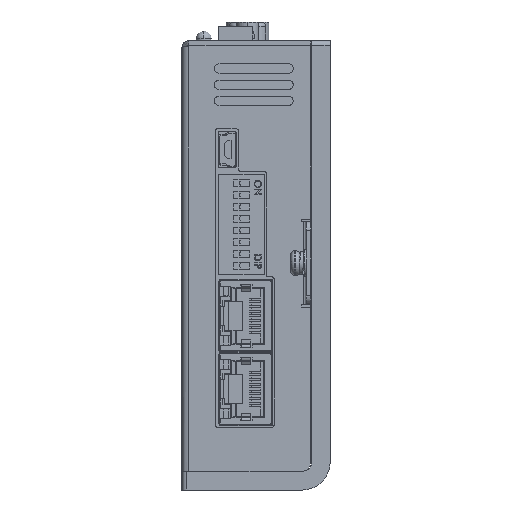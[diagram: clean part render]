
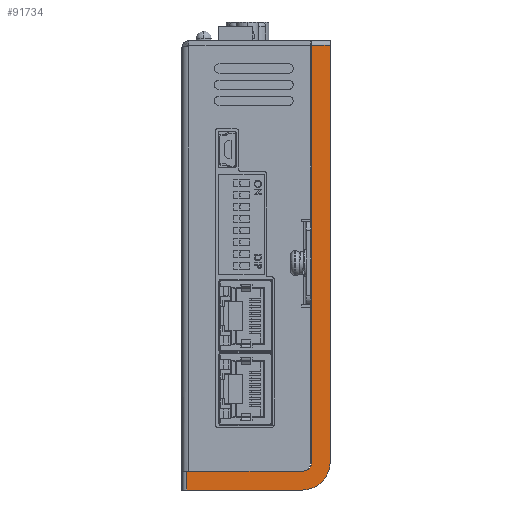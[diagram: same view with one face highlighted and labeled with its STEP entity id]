
A CAD part, left-side view. The second image highlights one B-rep face of the part: STEP entity #91734.
In plain terms, the highlighted planar face has unit normal (-1, 0, 0).
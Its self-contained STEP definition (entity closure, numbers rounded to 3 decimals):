
#9749 = AXIS2_PLACEMENT_3D ( 'NONE', #177257, #177259, #177261 ) ;
#28492 = VERTEX_POINT ( 'NONE', #71185 ) ;
#28494 = VERTEX_POINT ( 'NONE', #71189 ) ;
#28499 = VERTEX_POINT ( 'NONE', #71201 ) ;
#28501 = VERTEX_POINT ( 'NONE', #71205 ) ;
#28503 = VERTEX_POINT ( 'NONE', #71209 ) ;
#28505 = VERTEX_POINT ( 'NONE', #71213 ) ;
#28510 = VERTEX_POINT ( 'NONE', #71225 ) ;
#28533 = VERTEX_POINT ( 'NONE', #71278 ) ;
#47231 = LINE ( 'NONE', #47233, #224228 ) ;
#47233 = CARTESIAN_POINT ( 'NONE',  ( -70., 32., -44.5 ) ) ;
#47234 = DIRECTION ( 'NONE',  ( 0., -1., 0. ) ) ;
#47244 = LINE ( 'NONE', #47245, #224234 ) ;
#47245 = CARTESIAN_POINT ( 'NONE',  ( -70., 4., 48.5 ) ) ;
#47246 = DIRECTION ( 'NONE',  ( 0., 0., 1. ) ) ;
#47272 = CARTESIAN_POINT ( 'NONE',  ( -70., 6., -42.5 ) ) ;
#47273 = DIRECTION ( 'NONE',  ( 1., 0., 0. ) ) ;
#47274 = DIRECTION ( 'NONE',  ( 0., 0., -1. ) ) ;
#50430 = ORIENTED_EDGE ( 'NONE', *, *, #152328, .T. ) ;
#50432 = ORIENTED_EDGE ( 'NONE', *, *, #151691, .F. ) ;
#50434 = ORIENTED_EDGE ( 'NONE', *, *, #151723, .T. ) ;
#50436 = ORIENTED_EDGE ( 'NONE', *, *, #151700, .F. ) ;
#50438 = ORIENTED_EDGE ( 'NONE', *, *, #152385, .T. ) ;
#50440 = ORIENTED_EDGE ( 'NONE', *, *, #152813, .T. ) ;
#50442 = ORIENTED_EDGE ( 'NONE', *, *, #152270, .T. ) ;
#50444 = ORIENTED_EDGE ( 'NONE', *, *, #152141, .T. ) ;
#71185 = CARTESIAN_POINT ( 'NONE',  ( -70., 4., 47.5 ) ) ;
#71189 = CARTESIAN_POINT ( 'NONE',  ( -70., 0., 47.5 ) ) ;
#71201 = CARTESIAN_POINT ( 'NONE',  ( -70., 0., -42.5 ) ) ;
#71205 = CARTESIAN_POINT ( 'NONE',  ( -70., 31., -44.5 ) ) ;
#71209 = CARTESIAN_POINT ( 'NONE',  ( -70., 4., -42.5 ) ) ;
#71213 = CARTESIAN_POINT ( 'NONE',  ( -70., 6., -48.5 ) ) ;
#71225 = CARTESIAN_POINT ( 'NONE',  ( -70., 31., -48.5 ) ) ;
#71278 = CARTESIAN_POINT ( 'NONE',  ( -70., 6., -44.5 ) ) ;
#91734 = ADVANCED_FACE ( 'NONE', ( #177235 ), #177255, .F. ) ;
#126027 = LINE ( 'NONE', #126032, #224596 ) ;
#126032 = CARTESIAN_POINT ( 'NONE',  ( -70., 4., -48.5 ) ) ;
#126035 = DIRECTION ( 'NONE',  ( 0., -1., 0. ) ) ;
#126518 = CARTESIAN_POINT ( 'NONE',  ( -70., 6., -42.5 ) ) ;
#126519 = DIRECTION ( 'NONE',  ( -1., 0., 0. ) ) ;
#126521 = DIRECTION ( 'NONE',  ( 0., 0., -1. ) ) ;
#126706 = CARTESIAN_POINT ( 'NONE',  ( -70., 31., 48.5 ) ) ;
#126719 = LINE ( 'NONE', #126706, #224803 ) ;
#126728 = DIRECTION ( 'NONE',  ( 0., 0., -1. ) ) ;
#127664 = LINE ( 'NONE', #127668, #224874 ) ;
#127668 = CARTESIAN_POINT ( 'NONE',  ( -70., 4., 47.5 ) ) ;
#127670 = DIRECTION ( 'NONE',  ( 0., 1., 0. ) ) ;
#130900 = LINE ( 'NONE', #130960, #225230 ) ;
#130960 = CARTESIAN_POINT ( 'NONE',  ( -70., 0., 48.5 ) ) ;
#130971 = DIRECTION ( 'NONE',  ( 0., 0., 1. ) ) ;
#151691 = EDGE_CURVE ( 'NONE', #28501, #28533, #47231, .T. ) ;
#151700 = EDGE_CURVE ( 'NONE', #28503, #28492, #47244, .T. ) ;
#151723 = EDGE_CURVE ( 'NONE', #28503, #28533, #224248, .T. ) ;
#152141 = EDGE_CURVE ( 'NONE', #28510, #28505, #126027, .T. ) ;
#152270 = EDGE_CURVE ( 'NONE', #28505, #28499, #224730, .T. ) ;
#152328 = EDGE_CURVE ( 'NONE', #28501, #28510, #126719, .T. ) ;
#152385 = EDGE_CURVE ( 'NONE', #28494, #28492, #127664, .T. ) ;
#152813 = EDGE_CURVE ( 'NONE', #28499, #28494, #130900, .T. ) ;
#177235 = FACE_OUTER_BOUND ( 'NONE', #225739, .T. ) ;
#177255 = PLANE ( 'NONE',  #9749 ) ;
#177257 = CARTESIAN_POINT ( 'NONE',  ( -70., 4., 48.5 ) ) ;
#177259 = DIRECTION ( 'NONE',  ( 1., 0., 0. ) ) ;
#177261 = DIRECTION ( 'NONE',  ( 0., 0., -1. ) ) ;
#224228 = VECTOR ( 'NONE', #47234, 1000. ) ;
#224234 = VECTOR ( 'NONE', #47246, 1000. ) ;
#224248 = CIRCLE ( 'NONE', #224252, 2. ) ;
#224252 = AXIS2_PLACEMENT_3D ( 'NONE', #47272, #47273, #47274 ) ;
#224596 = VECTOR ( 'NONE', #126035, 1000. ) ;
#224730 = CIRCLE ( 'NONE', #224736, 6. ) ;
#224736 = AXIS2_PLACEMENT_3D ( 'NONE', #126518, #126519, #126521 ) ;
#224803 = VECTOR ( 'NONE', #126728, 1000. ) ;
#224874 = VECTOR ( 'NONE', #127670, 1000. ) ;
#225230 = VECTOR ( 'NONE', #130971, 1000. ) ;
#225739 = EDGE_LOOP ( 'NONE', ( #50444, #50442, #50440, #50438, #50436, #50434, #50432, #50430 ) ) ;
